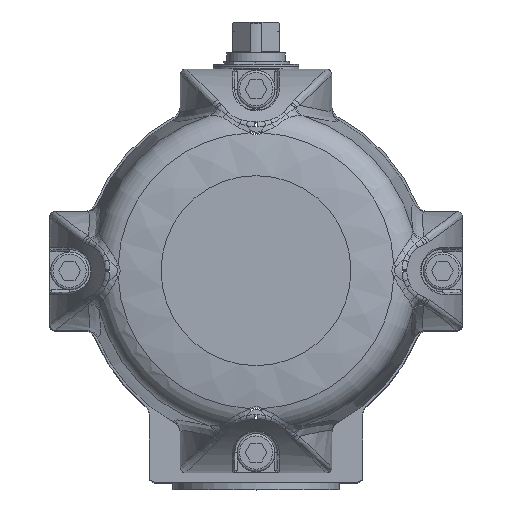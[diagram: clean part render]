
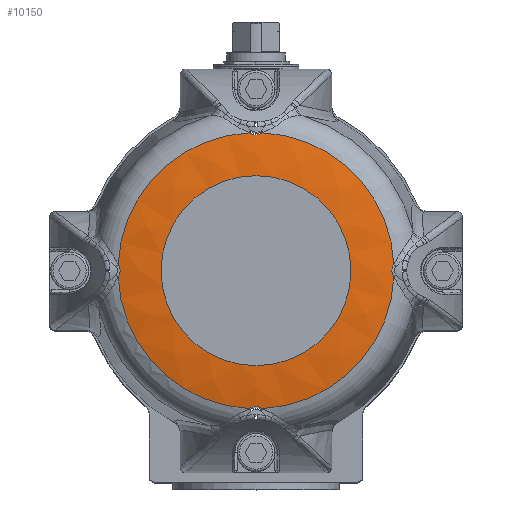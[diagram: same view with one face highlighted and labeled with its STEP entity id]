
A CAD part, top view. The second image highlights one B-rep face of the part: STEP entity #10150.
In plain terms, the highlighted free-form (B-spline) face has degree [2, 2] with [3, 9] control points.
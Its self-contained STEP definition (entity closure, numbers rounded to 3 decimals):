
#13=(
BOUNDED_CURVE()
B_SPLINE_CURVE(2,(#16906,#16907,#16908),.UNSPECIFIED.,.F.,.F.)
B_SPLINE_CURVE_WITH_KNOTS((3,3),(1.353,1.571),
 .UNSPECIFIED.)
CURVE()
GEOMETRIC_REPRESENTATION_ITEM()
RATIONAL_B_SPLINE_CURVE((0.999,0.994,1.))
REPRESENTATION_ITEM('')
);
#27=(
BOUNDED_SURFACE()
B_SPLINE_SURFACE(2,2,((#16871,#16872,#16873,#16874,#16875,#16876,#16877,
#16878,#16879),(#16880,#16881,#16882,#16883,#16884,#16885,#16886,#16887,
#16888),(#16889,#16890,#16891,#16892,#16893,#16894,#16895,#16896,#16897)),
 .UNSPECIFIED.,.F.,.T.,.F.)
B_SPLINE_SURFACE_WITH_KNOTS((3,3),(3,2,2,2,3),(-1.571,-1.342),
(-3.142,-1.571,0.,1.571,3.142),
 .UNSPECIFIED.)
GEOMETRIC_REPRESENTATION_ITEM()
RATIONAL_B_SPLINE_SURFACE(((1.,0.707,1.,0.707,1.,
0.707,1.,0.707,1.),(0.993,0.702,
0.993,0.702,0.993,0.702,
0.993,0.702,0.993),(1.,0.707,
1.,0.707,1.,0.707,1.,0.707,1.)))
REPRESENTATION_ITEM('')
SURFACE()
);
#513=B_SPLINE_CURVE_WITH_KNOTS('',3,(#15342,#15343,#15344,#15345,#15346,
#15347),.UNSPECIFIED.,.F.,.F.,(4,1,1,4),(0.,0.163,0.325,
0.569),.UNSPECIFIED.);
#578=B_SPLINE_CURVE_WITH_KNOTS('',3,(#16566,#16567,#16568,#16569,#16570,
#16571),.UNSPECIFIED.,.F.,.F.,(4,1,1,4),(0.,0.163,0.325,
0.569),.UNSPECIFIED.);
#598=B_SPLINE_CURVE_WITH_KNOTS('',3,(#16901,#16902,#16903,#16904),
 .UNSPECIFIED.,.F.,.F.,(4,4),(0.305,0.611),
 .UNSPECIFIED.);
#599=B_SPLINE_CURVE_WITH_KNOTS('',3,(#16912,#16913,#16914,#16915),
 .UNSPECIFIED.,.F.,.F.,(4,4),(0.,0.305),.UNSPECIFIED.);
#600=B_SPLINE_CURVE_WITH_KNOTS('',3,(#16918,#16919,#16920,#16921,#16922,
#16923,#16924),.UNSPECIFIED.,.F.,.F.,(4,3,4),(0.,0.269,0.611),
 .UNSPECIFIED.);
#1201=CIRCLE('',#10817,58.131);
#1253=CIRCLE('',#10887,58.131);
#1254=CIRCLE('',#10888,58.131);
#1255=CIRCLE('',#10889,40.);
#1256=CIRCLE('',#10890,40.);
#1257=CIRCLE('',#10891,58.131);
#1803=FACE_OUTER_BOUND('',#2425,.T.);
#2425=EDGE_LOOP('',(#7291,#7292,#7293,#7294,#7295,#7296,#7297,#7298,#7299,
#7300,#7301,#7302,#7303));
#4072=VERTEX_POINT('',#15305);
#4075=VERTEX_POINT('',#15340);
#4093=VERTEX_POINT('',#15656);
#4165=VERTEX_POINT('',#16526);
#4167=VERTEX_POINT('',#16565);
#4183=VERTEX_POINT('',#16845);
#4187=VERTEX_POINT('',#16898);
#4188=VERTEX_POINT('',#16900);
#4189=VERTEX_POINT('',#16905);
#4190=VERTEX_POINT('',#16909);
#4191=VERTEX_POINT('',#16916);
#5200=EDGE_CURVE('',#4075,#4072,#513,.T.);
#5235=EDGE_CURVE('',#4072,#4093,#1201,.T.);
#5347=EDGE_CURVE('',#4165,#4167,#578,.T.);
#5374=EDGE_CURVE('',#4167,#4183,#1253,.T.);
#5379=EDGE_CURVE('',#4187,#4075,#1254,.T.);
#5380=EDGE_CURVE('',#4188,#4187,#598,.T.);
#5381=EDGE_CURVE('',#4188,#4189,#13,.T.);
#5382=EDGE_CURVE('',#4189,#4190,#1255,.T.);
#5383=EDGE_CURVE('',#4190,#4189,#1256,.T.);
#5384=EDGE_CURVE('',#4183,#4188,#599,.T.);
#5385=EDGE_CURVE('',#4191,#4165,#1257,.T.);
#5386=EDGE_CURVE('',#4093,#4191,#600,.T.);
#7291=ORIENTED_EDGE('',*,*,#5200,.F.);
#7292=ORIENTED_EDGE('',*,*,#5379,.F.);
#7293=ORIENTED_EDGE('',*,*,#5380,.F.);
#7294=ORIENTED_EDGE('',*,*,#5381,.T.);
#7295=ORIENTED_EDGE('',*,*,#5382,.T.);
#7296=ORIENTED_EDGE('',*,*,#5383,.T.);
#7297=ORIENTED_EDGE('',*,*,#5381,.F.);
#7298=ORIENTED_EDGE('',*,*,#5384,.F.);
#7299=ORIENTED_EDGE('',*,*,#5374,.F.);
#7300=ORIENTED_EDGE('',*,*,#5347,.F.);
#7301=ORIENTED_EDGE('',*,*,#5385,.F.);
#7302=ORIENTED_EDGE('',*,*,#5386,.F.);
#7303=ORIENTED_EDGE('',*,*,#5235,.F.);
#10150=ADVANCED_FACE('',(#1803),#27,.F.);
#10817=AXIS2_PLACEMENT_3D('',#15657,#12066,#12067);
#10887=AXIS2_PLACEMENT_3D('',#16846,#12231,#12232);
#10888=AXIS2_PLACEMENT_3D('',#16899,#12233,#12234);
#10889=AXIS2_PLACEMENT_3D('',#16910,#12235,#12236);
#10890=AXIS2_PLACEMENT_3D('',#16911,#12237,#12238);
#10891=AXIS2_PLACEMENT_3D('',#16917,#12239,#12240);
#12066=DIRECTION('center_axis',(0.,0.,
-1.));
#12067=DIRECTION('ref_axis',(-1.,0.,0.));
#12231=DIRECTION('center_axis',(0.,0.,
-1.));
#12232=DIRECTION('ref_axis',(-1.,0.,0.));
#12233=DIRECTION('center_axis',(0.,0.,
-1.));
#12234=DIRECTION('ref_axis',(-1.,0.,0.));
#12235=DIRECTION('center_axis',(0.,0.,
-1.));
#12236=DIRECTION('ref_axis',(-1.,0.,0.));
#12237=DIRECTION('center_axis',(0.,0.,
-1.));
#12238=DIRECTION('ref_axis',(-1.,0.,0.));
#12239=DIRECTION('center_axis',(0.,0.,
-1.));
#12240=DIRECTION('ref_axis',(-1.,0.,0.));
#15305=CARTESIAN_POINT('',(-58.072,2.624,170.918));
#15340=CARTESIAN_POINT('',(-58.072,-2.624,170.918));
#15342=CARTESIAN_POINT('Ctrl Pts',(-58.072,-2.624,
170.918));
#15343=CARTESIAN_POINT('Ctrl Pts',(-57.8,-2.181,
170.986));
#15344=CARTESIAN_POINT('Ctrl Pts',(-57.332,-1.219,
171.099));
#15345=CARTESIAN_POINT('Ctrl Pts',(-57.136,0.684,
171.145));
#15346=CARTESIAN_POINT('Ctrl Pts',(-57.664,1.959,171.02));
#15347=CARTESIAN_POINT('Ctrl Pts',(-58.072,2.624,170.918));
#15656=CARTESIAN_POINT('',(-2.847,58.061,170.918));
#15657=CARTESIAN_POINT('Origin',(0.,0.,
170.918));
#16526=CARTESIAN_POINT('',(58.072,2.624,170.918));
#16565=CARTESIAN_POINT('',(58.072,-2.624,170.918));
#16566=CARTESIAN_POINT('Ctrl Pts',(58.072,2.624,170.918));
#16567=CARTESIAN_POINT('Ctrl Pts',(57.8,2.181,170.986));
#16568=CARTESIAN_POINT('Ctrl Pts',(57.332,1.218,171.099));
#16569=CARTESIAN_POINT('Ctrl Pts',(57.137,-0.685,171.145));
#16570=CARTESIAN_POINT('Ctrl Pts',(57.664,-1.959,171.02));
#16571=CARTESIAN_POINT('Ctrl Pts',(58.072,-2.624,170.918));
#16845=CARTESIAN_POINT('',(2.847,-58.061,170.918));
#16846=CARTESIAN_POINT('Origin',(0.,0.,
170.918));
#16871=CARTESIAN_POINT('Ctrl Pts',(0.,-40.,
173.));
#16872=CARTESIAN_POINT('Ctrl Pts',(-40.,-40.,
173.));
#16873=CARTESIAN_POINT('Ctrl Pts',(-40.,0.,
173.));
#16874=CARTESIAN_POINT('Ctrl Pts',(-40.,40.,173.));
#16875=CARTESIAN_POINT('Ctrl Pts',(0.,40.,
173.));
#16876=CARTESIAN_POINT('Ctrl Pts',(40.,40.,173.));
#16877=CARTESIAN_POINT('Ctrl Pts',(40.,0.,
173.));
#16878=CARTESIAN_POINT('Ctrl Pts',(40.,-40.,173.));
#16879=CARTESIAN_POINT('Ctrl Pts',(0.,-40.,
173.));
#16880=CARTESIAN_POINT('Ctrl Pts',(0.,-49.185,
173.));
#16881=CARTESIAN_POINT('Ctrl Pts',(-49.185,-49.185,
173.));
#16882=CARTESIAN_POINT('Ctrl Pts',(-49.185,0.,
173.));
#16883=CARTESIAN_POINT('Ctrl Pts',(-49.185,49.185,173.));
#16884=CARTESIAN_POINT('Ctrl Pts',(0.,49.185,
173.));
#16885=CARTESIAN_POINT('Ctrl Pts',(49.185,49.185,173.));
#16886=CARTESIAN_POINT('Ctrl Pts',(49.185,0.,
173.));
#16887=CARTESIAN_POINT('Ctrl Pts',(49.185,-49.185,173.));
#16888=CARTESIAN_POINT('Ctrl Pts',(0.,-49.185,
173.));
#16889=CARTESIAN_POINT('Ctrl Pts',(0.,-58.131,
170.918));
#16890=CARTESIAN_POINT('Ctrl Pts',(-58.131,-58.131,
170.918));
#16891=CARTESIAN_POINT('Ctrl Pts',(-58.131,0.,
170.918));
#16892=CARTESIAN_POINT('Ctrl Pts',(-58.131,58.131,170.918));
#16893=CARTESIAN_POINT('Ctrl Pts',(0.,58.131,
170.918));
#16894=CARTESIAN_POINT('Ctrl Pts',(58.131,58.131,170.918));
#16895=CARTESIAN_POINT('Ctrl Pts',(58.131,0.,
170.918));
#16896=CARTESIAN_POINT('Ctrl Pts',(58.131,-58.131,170.918));
#16897=CARTESIAN_POINT('Ctrl Pts',(0.,-58.131,
170.918));
#16898=CARTESIAN_POINT('',(-2.847,-58.061,170.918));
#16899=CARTESIAN_POINT('Origin',(0.,0.,
170.918));
#16900=CARTESIAN_POINT('',(0.,-57.252,171.118));
#16901=CARTESIAN_POINT('Ctrl Pts',(0.,-57.252,
171.118));
#16902=CARTESIAN_POINT('Ctrl Pts',(-1.009,-57.252,
171.118));
#16903=CARTESIAN_POINT('Ctrl Pts',(-1.991,-57.584,
171.039));
#16904=CARTESIAN_POINT('Ctrl Pts',(-2.847,-58.061,
170.918));
#16905=CARTESIAN_POINT('',(0.,-40.,173.));
#16906=CARTESIAN_POINT('Ctrl Pts',(0.,-57.252,
171.118));
#16907=CARTESIAN_POINT('Ctrl Pts',(0.,-48.729,
173.));
#16908=CARTESIAN_POINT('Ctrl Pts',(0.,-40.,
173.));
#16909=CARTESIAN_POINT('',(-40.,0.,173.));
#16910=CARTESIAN_POINT('Origin',(0.,0.,
173.));
#16911=CARTESIAN_POINT('Origin',(0.,0.,
173.));
#16912=CARTESIAN_POINT('Ctrl Pts',(2.847,-58.061,170.918));
#16913=CARTESIAN_POINT('Ctrl Pts',(1.992,-57.585,171.039));
#16914=CARTESIAN_POINT('Ctrl Pts',(1.008,-57.252,171.118));
#16915=CARTESIAN_POINT('Ctrl Pts',(0.,-57.252,
171.118));
#16916=CARTESIAN_POINT('',(2.847,58.061,170.918));
#16917=CARTESIAN_POINT('Origin',(0.,0.,
170.918));
#16918=CARTESIAN_POINT('Ctrl Pts',(-2.847,58.061,170.918));
#16919=CARTESIAN_POINT('Ctrl Pts',(-2.094,57.641,171.025));
#16920=CARTESIAN_POINT('Ctrl Pts',(-1.249,57.331,171.099));
#16921=CARTESIAN_POINT('Ctrl Pts',(-0.363,57.265,
171.114));
#16922=CARTESIAN_POINT('Ctrl Pts',(0.763,57.182,171.134));
#16923=CARTESIAN_POINT('Ctrl Pts',(1.889,57.527,171.053));
#16924=CARTESIAN_POINT('Ctrl Pts',(2.847,58.061,170.918));
